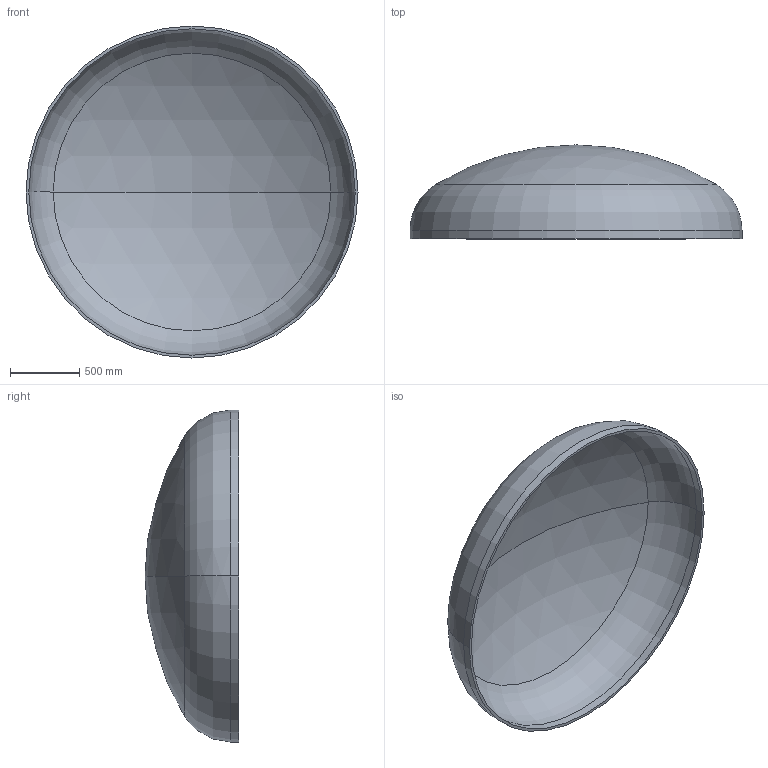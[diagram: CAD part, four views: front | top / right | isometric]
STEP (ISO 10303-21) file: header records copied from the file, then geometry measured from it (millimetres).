
FILE_DESCRIPTION (( 'STEP AP203' ), '1' );
FILE_NAME ('DIN 28013 Korbbogenform_-_Boden DIN 28013 - 2400 x 60 - I - s=20.step', '2016-07-01T15:09:45', ( '' ), ( '' ), 'SwSTEP 2.0', 'SolidWorks 2013', '' );
FILE_SCHEMA (( 'CONFIG_CONTROL_DESIGN' ));
Length unit declared in the file: millimetre
Products named in the file (1): DIN 28013 Korbbogenform_-_Boden DIN 28013 - 2400 x 60 - I - s=20
Bounding box: 2400 x 678.49 x 2400 mm (x, y, z)
Volume: 132936418.4 mm3; surface area: 13444014.4 mm2
Topology: 1 solids, 1 shells, 13 faces, 24 edges, 14 vertices
Faces by surface type: torus 4, cylinder 4, sphere 4, plane 1
Entity records: 407 total; most frequent: DIRECTION 72, CARTESIAN_POINT 52, ORIENTED_EDGE 48, AXIS2_PLACEMENT_3D 34, EDGE_CURVE 24, CIRCLE 20, EDGE_LOOP 14, VERTEX_POINT 14
